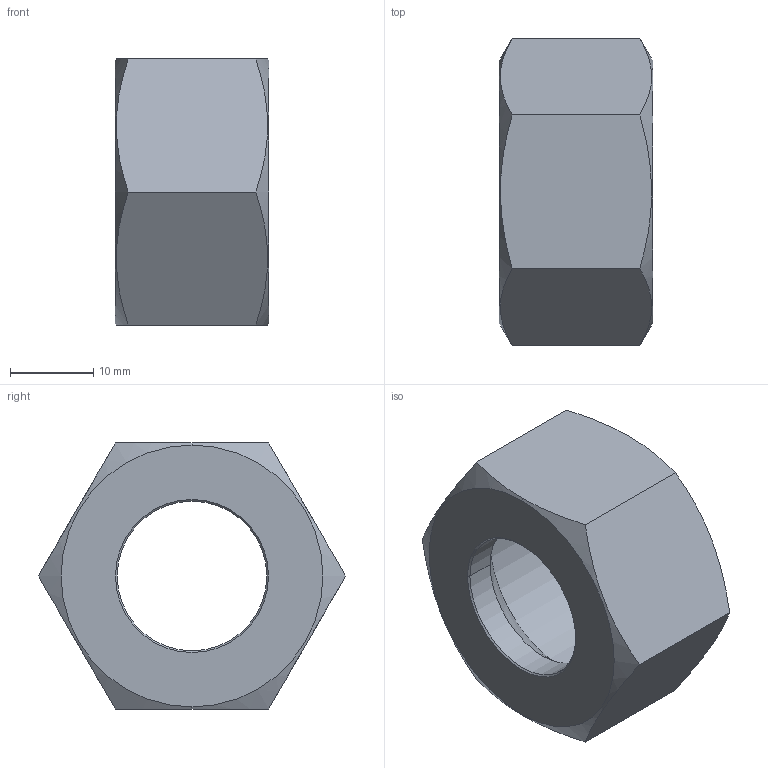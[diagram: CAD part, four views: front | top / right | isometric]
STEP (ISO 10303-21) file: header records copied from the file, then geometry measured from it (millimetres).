
FILE_DESCRIPTION((''),'2;1');
FILE_NAME('100209.stp','2006-03-06T15:11:21',('Dario Falcomer'),('CAST S.p.A.'),'AutoCAD STEP 2000i','AutoCAD 2000i',', , ');
FILE_SCHEMA(('CONFIG_CONTROL_DESIGN'));
Length unit declared in the file: millimetre
Products named in the file (2): 100209.0; CHIAVE_DADI#0
Assembly tree (1 placements, depth 2):
  100209.0
    CHIAVE_DADI#0
Bounding box: 18.5 x 36.95 x 32 mm (x, y, z)
Volume: 8654.2 mm3; surface area: 4339.7 mm2
Topology: 1 solids, 1 shells, 22 faces, 52 edges, 32 vertices
Faces by surface type: cone 10, plane 8, cylinder 4
Entity records: 725 total; most frequent: CARTESIAN_POINT 140, ORIENTED_EDGE 104, DIRECTION 100, EDGE_CURVE 52, AXIS2_PLACEMENT_3D 40, VERTEX_POINT 32, EDGE_LOOP 24, FACE_OUTER_BOUND 22
